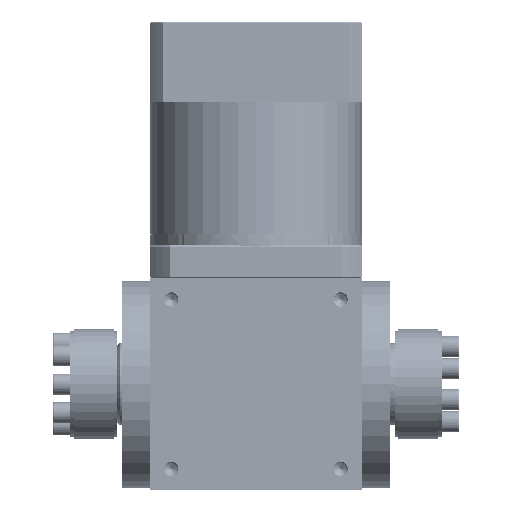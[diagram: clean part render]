
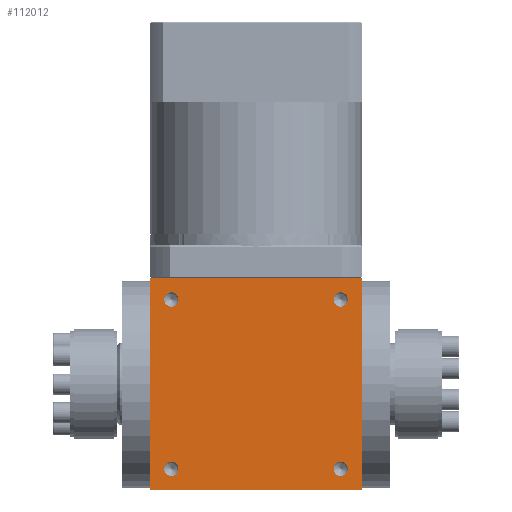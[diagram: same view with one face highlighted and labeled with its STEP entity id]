
A CAD part, front view. The second image highlights one B-rep face of the part: STEP entity #112012.
In plain terms, the highlighted planar face has unit normal (0, -1, 0).
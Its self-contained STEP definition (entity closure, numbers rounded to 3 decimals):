
#36 = EDGE_CURVE ( 'NONE', #94685, #94332, #64088, .T. ) ;
#6082 = VERTEX_POINT ( 'NONE', #112662 ) ;
#6131 = CIRCLE ( 'NONE', #82579, 3.025 ) ;
#6543 = CARTESIAN_POINT ( 'NONE',  ( -55.325, -35.387, 218. ) ) ;
#7507 = DIRECTION ( 'NONE',  ( -1., 0., 0. ) ) ;
#7542 = ORIENTED_EDGE ( 'NONE', *, *, #11235, .F. ) ;
#8166 = VECTOR ( 'NONE', #74101, 1000. ) ;
#11235 = EDGE_CURVE ( 'NONE', #94332, #88357, #108277, .T. ) ;
#12031 = FACE_BOUND ( 'NONE', #103522, .T. ) ;
#12382 = EDGE_CURVE ( 'NONE', #6082, #40605, #43128, .T. ) ;
#13780 = AXIS2_PLACEMENT_3D ( 'NONE', #97311, #76701, #7507 ) ;
#15864 = CIRCLE ( 'NONE', #79554, 3.025 ) ;
#16536 = CARTESIAN_POINT ( 'NONE',  ( -55.325, -35.387, 128. ) ) ;
#17550 = AXIS2_PLACEMENT_3D ( 'NONE', #73198, #63216, #93764 ) ;
#19256 = CARTESIAN_POINT ( 'NONE',  ( -43.3, -35.387, 137. ) ) ;
#20050 = CARTESIAN_POINT ( 'NONE',  ( 34.675, -35.387, 128. ) ) ;
#21079 = CARTESIAN_POINT ( 'NONE',  ( 25.675, -35.387, 137. ) ) ;
#21569 = CARTESIAN_POINT ( 'NONE',  ( 25.675, -35.387, 137. ) ) ;
#24460 = VECTOR ( 'NONE', #125796, 1000. ) ;
#24717 = EDGE_CURVE ( 'NONE', #88462, #67768, #15864, .T. ) ;
#26313 = EDGE_LOOP ( 'NONE', ( #64275, #104750 ) ) ;
#27415 = DIRECTION ( 'NONE',  ( 1., 0., 0. ) ) ;
#30957 = CARTESIAN_POINT ( 'NONE',  ( 22.65, -35.387, 137. ) ) ;
#32205 = VERTEX_POINT ( 'NONE', #33221 ) ;
#32756 = DIRECTION ( 'NONE',  ( 0., -1., 0. ) ) ;
#32808 = CIRCLE ( 'NONE', #45594, 3.025 ) ;
#33221 = CARTESIAN_POINT ( 'NONE',  ( 22.65, -35.387, 209. ) ) ;
#33462 = DIRECTION ( 'NONE',  ( -1., 0., 0. ) ) ;
#33558 = EDGE_CURVE ( 'NONE', #77764, #100146, #103745, .T. ) ;
#34058 = DIRECTION ( 'NONE',  ( 0., -1., 0. ) ) ;
#34588 = FACE_BOUND ( 'NONE', #26313, .T. ) ;
#35819 = DIRECTION ( 'NONE',  ( 0., 0., 1. ) ) ;
#36663 = VECTOR ( 'NONE', #35819, 1000. ) ;
#37082 = VERTEX_POINT ( 'NONE', #60948 ) ;
#38662 = LINE ( 'NONE', #79903, #116821 ) ;
#40605 = VERTEX_POINT ( 'NONE', #19256 ) ;
#41679 = DIRECTION ( 'NONE',  ( 0., -1., 0. ) ) ;
#42549 = DIRECTION ( 'NONE',  ( -1., 0., 0. ) ) ;
#43128 = CIRCLE ( 'NONE', #98256, 3.025 ) ;
#44100 = CARTESIAN_POINT ( 'NONE',  ( 25.675, -35.387, 209. ) ) ;
#44524 = ORIENTED_EDGE ( 'NONE', *, *, #59107, .F. ) ;
#44738 = DIRECTION ( 'NONE',  ( 0., -1., 0. ) ) ;
#45594 = AXIS2_PLACEMENT_3D ( 'NONE', #21079, #41679, #131445 ) ;
#48614 = EDGE_CURVE ( 'NONE', #100146, #77764, #32808, .T. ) ;
#53339 = DIRECTION ( 'NONE',  ( -1., 0., 0. ) ) ;
#54093 = DIRECTION ( 'NONE',  ( 0., -1., 0. ) ) ;
#56616 = CARTESIAN_POINT ( 'NONE',  ( 34.675, -35.387, 128. ) ) ;
#58384 = CARTESIAN_POINT ( 'NONE',  ( -43.3, -35.387, 209. ) ) ;
#59081 = EDGE_LOOP ( 'NONE', ( #72990, #105276 ) ) ;
#59107 = EDGE_CURVE ( 'NONE', #40605, #6082, #92365, .T. ) ;
#60948 = CARTESIAN_POINT ( 'NONE',  ( 28.7, -35.387, 209. ) ) ;
#61826 = CARTESIAN_POINT ( 'NONE',  ( -46.325, -35.387, 137. ) ) ;
#61885 = FACE_BOUND ( 'NONE', #101676, .T. ) ;
#62706 = CARTESIAN_POINT ( 'NONE',  ( -46.325, -35.387, 209. ) ) ;
#63216 = DIRECTION ( 'NONE',  ( 0., 1., 0. ) ) ;
#63396 = AXIS2_PLACEMENT_3D ( 'NONE', #21569, #54093, #123951 ) ;
#64088 = LINE ( 'NONE', #125279, #8166 ) ;
#64233 = ORIENTED_EDGE ( 'NONE', *, *, #12382, .F. ) ;
#64275 = ORIENTED_EDGE ( 'NONE', *, *, #114721, .F. ) ;
#65724 = EDGE_LOOP ( 'NONE', ( #7542, #81303, #100233, #68260 ) ) ;
#67768 = VERTEX_POINT ( 'NONE', #107593 ) ;
#68260 = ORIENTED_EDGE ( 'NONE', *, *, #130807, .F. ) ;
#69489 = CIRCLE ( 'NONE', #105553, 3.025 ) ;
#70922 = CIRCLE ( 'NONE', #123986, 3.025 ) ;
#71955 = VERTEX_POINT ( 'NONE', #125022 ) ;
#72990 = ORIENTED_EDGE ( 'NONE', *, *, #33558, .F. ) ;
#73198 = CARTESIAN_POINT ( 'NONE',  ( -10.325, -35.387, 173. ) ) ;
#73984 = DIRECTION ( 'NONE',  ( -1., 0., 0. ) ) ;
#74101 = DIRECTION ( 'NONE',  ( -1., 0., 0. ) ) ;
#75784 = ORIENTED_EDGE ( 'NONE', *, *, #127954, .F. ) ;
#76701 = DIRECTION ( 'NONE',  ( 0., -1., 0. ) ) ;
#77251 = CARTESIAN_POINT ( 'NONE',  ( -55.325, -35.387, 128. ) ) ;
#77764 = VERTEX_POINT ( 'NONE', #30957 ) ;
#79554 = AXIS2_PLACEMENT_3D ( 'NONE', #62706, #82681, #33462 ) ;
#79903 = CARTESIAN_POINT ( 'NONE',  ( -55.325, -35.387, 218. ) ) ;
#80487 = DIRECTION ( 'NONE',  ( 0., -1., 0. ) ) ;
#80834 = CARTESIAN_POINT ( 'NONE',  ( 28.7, -35.387, 137. ) ) ;
#81303 = ORIENTED_EDGE ( 'NONE', *, *, #36, .F. ) ;
#82529 = FACE_OUTER_BOUND ( 'NONE', #65724, .T. ) ;
#82579 = AXIS2_PLACEMENT_3D ( 'NONE', #44100, #44738, #125857 ) ;
#82681 = DIRECTION ( 'NONE',  ( 0., -1., 0. ) ) ;
#83346 = EDGE_CURVE ( 'NONE', #71955, #94685, #127736, .T. ) ;
#85229 = CARTESIAN_POINT ( 'NONE',  ( -46.325, -35.387, 209. ) ) ;
#88357 = VERTEX_POINT ( 'NONE', #6543 ) ;
#88462 = VERTEX_POINT ( 'NONE', #58384 ) ;
#91605 = ORIENTED_EDGE ( 'NONE', *, *, #124779, .F. ) ;
#92365 = CIRCLE ( 'NONE', #13780, 3.025 ) ;
#93764 = DIRECTION ( 'NONE',  ( 1., 0., 0. ) ) ;
#94332 = VERTEX_POINT ( 'NONE', #77251 ) ;
#94685 = VERTEX_POINT ( 'NONE', #20050 ) ;
#97311 = CARTESIAN_POINT ( 'NONE',  ( -46.325, -35.387, 137. ) ) ;
#98256 = AXIS2_PLACEMENT_3D ( 'NONE', #61826, #80487, #42549 ) ;
#100146 = VERTEX_POINT ( 'NONE', #80834 ) ;
#100233 = ORIENTED_EDGE ( 'NONE', *, *, #83346, .F. ) ;
#101676 = EDGE_LOOP ( 'NONE', ( #64233, #44524 ) ) ;
#102471 = FACE_BOUND ( 'NONE', #59081, .T. ) ;
#103522 = EDGE_LOOP ( 'NONE', ( #75784, #91605 ) ) ;
#103745 = CIRCLE ( 'NONE', #63396, 3.025 ) ;
#104750 = ORIENTED_EDGE ( 'NONE', *, *, #24717, .F. ) ;
#105276 = ORIENTED_EDGE ( 'NONE', *, *, #48614, .F. ) ;
#105553 = AXIS2_PLACEMENT_3D ( 'NONE', #123855, #32756, #73984 ) ;
#107593 = CARTESIAN_POINT ( 'NONE',  ( -49.35, -35.387, 209. ) ) ;
#108277 = LINE ( 'NONE', #16536, #36663 ) ;
#112012 = ADVANCED_FACE ( 'NONE', ( #34588, #61885, #12031, #102471, #82529 ), #123083, .F. ) ;
#112662 = CARTESIAN_POINT ( 'NONE',  ( -49.35, -35.387, 137. ) ) ;
#114721 = EDGE_CURVE ( 'NONE', #67768, #88462, #70922, .T. ) ;
#116821 = VECTOR ( 'NONE', #27415, 1000. ) ;
#123083 = PLANE ( 'NONE',  #17550 ) ;
#123855 = CARTESIAN_POINT ( 'NONE',  ( 25.675, -35.387, 209. ) ) ;
#123951 = DIRECTION ( 'NONE',  ( -1., 0., 0. ) ) ;
#123986 = AXIS2_PLACEMENT_3D ( 'NONE', #85229, #34058, #53339 ) ;
#124779 = EDGE_CURVE ( 'NONE', #37082, #32205, #69489, .T. ) ;
#125022 = CARTESIAN_POINT ( 'NONE',  ( 34.675, -35.387, 218. ) ) ;
#125279 = CARTESIAN_POINT ( 'NONE',  ( -55.325, -35.387, 128. ) ) ;
#125796 = DIRECTION ( 'NONE',  ( 0., 0., -1. ) ) ;
#125857 = DIRECTION ( 'NONE',  ( -1., 0., 0. ) ) ;
#127736 = LINE ( 'NONE', #56616, #24460 ) ;
#127954 = EDGE_CURVE ( 'NONE', #32205, #37082, #6131, .T. ) ;
#130807 = EDGE_CURVE ( 'NONE', #88357, #71955, #38662, .T. ) ;
#131445 = DIRECTION ( 'NONE',  ( -1., 0., 0. ) ) ;
